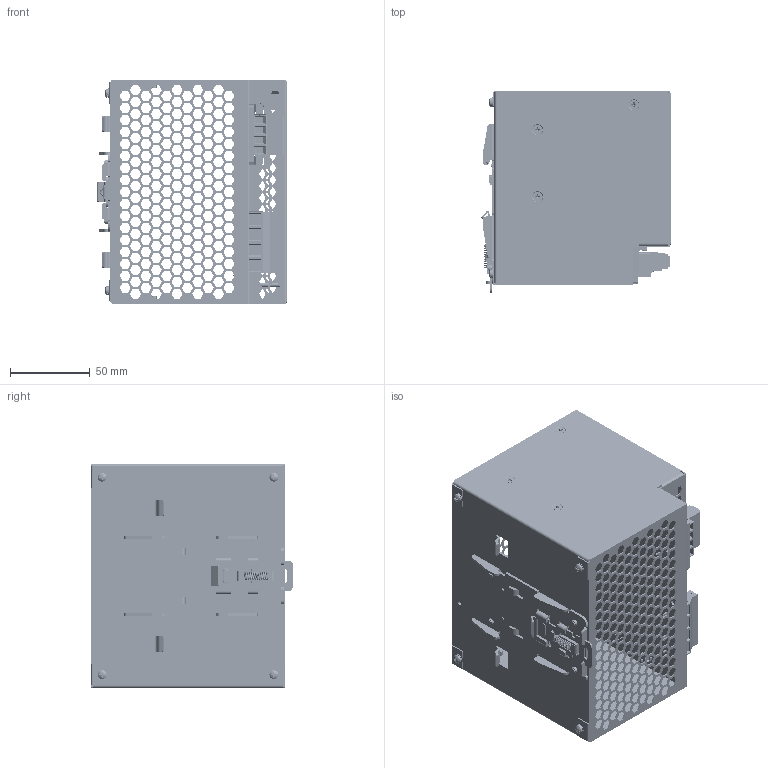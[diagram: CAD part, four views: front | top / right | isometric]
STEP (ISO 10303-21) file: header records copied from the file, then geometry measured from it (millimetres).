
FILE_DESCRIPTION((''),'2;1');
FILE_NAME('DRP024V480W3BA_ASM','2013-01-14T',('Manop.Pr'),(''),'PRO/ENGINEER BY PARAMETRIC TECHNOLOGY CORPORATION, 2010180','PRO/ENGINEER BY PARAMETRIC TECHNOLOGY CORPORATION, 2010180','');
FILE_SCHEMA(('CONFIG_CONTROL_DESIGN','SHAPE_APPEARANCE_LAYERS_GROUPS'));
Products named in the file (40): 330315110000; 3303151100S0_STUD-M3; 330315110000_ASM; 3461303000; 3460088100; 3462026200; ASSY_LATCH_50X100_ASM; 330314990000; 347205340102; 3252030300; ASSY_COVER_ASM; 326257490000; 326838880000; DCT-1590; 7; 2-81; 4-86; 1-91; MH150-635M8X01_ASM; 3; 2-106; 4-111; 1-116; MH150-635M8X01-1_ASM; ASSEM1_ASM; 307662627W_MH150-635M804A301_ASM; 3352085700_PCB-2_6-32; 346050340000-FIXTURE_GROUND; MB910-952M02; 307049147W_MB910-952M04A301_ASM; 3123303900; EE-LED350; ASSY_LED_ASM; VR_3296Y; ASSY_DCT-1590_ASM; 3100000600; 3100300600; 3103000500; 3103300600; DRP024V480W3BA_ASM
Assembly tree (57 placements, depth 6):
  DRP024V480W3BA_ASM
    330315110000_ASM
      330315110000
      3303151100S0_STUD-M3  x2
    ASSY_LATCH_50X100_ASM
      3461303000
      3460088100
      3462026200
    ASSY_COVER_ASM
      330314990000
      347205340102
      3252030300
    326257490000
    326838880000
    ASSY_DCT-1590_ASM
      DCT-1590
      307662627W_MH150-635M804A301_ASM
        ASSEM1_ASM
          MH150-635M8X01_ASM  x2
            7
            2-81
            4-86
            1-91
          MH150-635M8X01-1_ASM  x2
            3
            2-106
            4-111
            1-116
      3352085700_PCB-2_6-32  x3
      346050340000-FIXTURE_GROUND
      307049147W_MB910-952M04A301_ASM
        MB910-952M02  x2
      ASSY_LED_ASM
        3123303900
        EE-LED350
      VR_3296Y
    3100000600  x4
    3100300600  x4
    3103000500  x7
    3103300600
Bounding box: 118.57 x 126 x 140.07 mm (x, y, z)
Volume: 141187.4 mm3; surface area: 263694.9 mm2
Topology: 55 solids, 59 shells, 11493 faces, 32192 edges, 21087 vertices
Faces by surface type: plane 9382, cylinder 1046, extrusion 710, cone 142, bspline 128, torus 73, sphere 12
Entity records: 350414 total; most frequent: CARTESIAN_POINT 74878, ORIENTED_EDGE 46898, DIRECTION 38844, EDGE_CURVE 23449, VECTOR 20678, LINE 19981, PRESENTATION_STYLE_ASSIGNMENT 19523, STYLED_ITEM 19396
